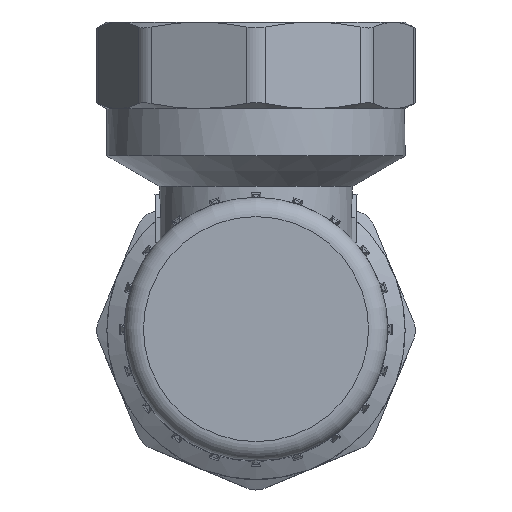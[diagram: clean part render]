
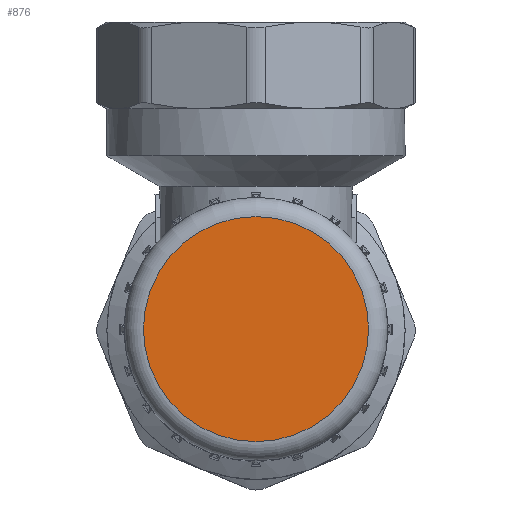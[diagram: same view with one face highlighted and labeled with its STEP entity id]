
A CAD part, top view. The second image highlights one B-rep face of the part: STEP entity #876.
In plain terms, the highlighted planar face has unit normal (0, 0, 1).
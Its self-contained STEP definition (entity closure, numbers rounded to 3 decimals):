
#876=ADVANCED_FACE('',(#2294),#2296,.F.);
#2294=FACE_BOUND('',#2295,.T.);
#2295=EDGE_LOOP('',(#14229));
#2296=PLANE('',#2297);
#2297=AXIS2_PLACEMENT_3D('',#2298,#2299,#2300);
#2298=CARTESIAN_POINT('',(0.,0.,56.3));
#2299=DIRECTION('',(0.,0.,-1.));
#2300=DIRECTION('',(-1.,0.,0.));
#14229=ORIENTED_EDGE('',*,*,#22435,.F.);
#22435=EDGE_CURVE('',#26066,#26066,#26067,.T.);
#26066=VERTEX_POINT('',#32107);
#26067=CIRCLE('',#32108,11.7);
#32107=CARTESIAN_POINT('',(-11.7,0.,56.3));
#32108=AXIS2_PLACEMENT_3D('',#32109,#32110,#32111);
#32109=CARTESIAN_POINT('',(0.,0.,56.3));
#32110=DIRECTION('',(0.,0.,-1.));
#32111=DIRECTION('',(-1.,0.,0.));
